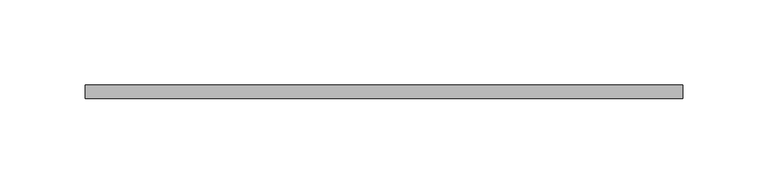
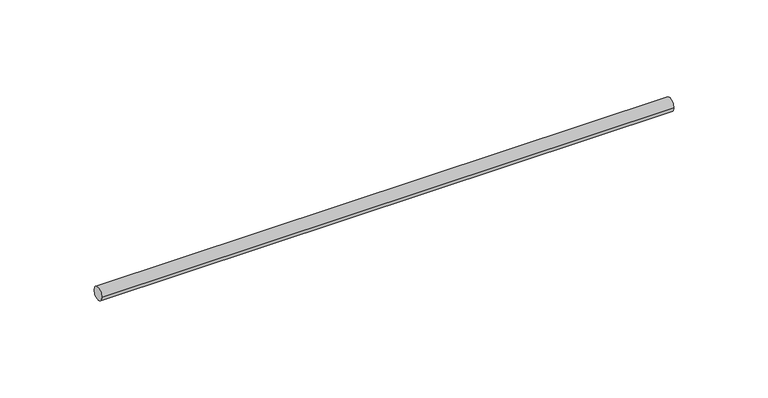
"""IFC4 building model written with IfcOpenShell, lengths in millimetres: valve geometry, Superfix Threaded Rod (used for clamps) : Threaded Rod  Extra  - 1000 mm (used for clamps)."""

from ifc_helpers import new_model, si_unit, point, frame, origin, origin_2d, place, context, project, spatial, circle_curve, trimmed, segment, composite_curve, outline, extrude, source, transform, mapped, element, save


def valve_f58c43d9(model_context):
    return source(origin(), model_context, "Body", "SweptSolid", [
        extrude(outline(composite_curve([segment(trimmed(circle_curve(origin_2d(), 4.0), [point((-4.0, 0.0))], [point((4.0, 0.0))], False, "CARTESIAN"), True, "CONTINUOUS"), segment(trimmed(circle_curve(origin_2d(), 4.0), [point((4.0, 0.0))], [point((-4.0, 0.0))], False, "CARTESIAN"), True, "CONTINUOUS")], self_intersect=False)), frame((-10.0, 0.0, 0.0), z_axis=(1.0, 0.0, 0.0), x_axis=(0.0, 1.0, 0.0)), (0.0, 0.0, 1.0), 350.5002332),
    ])


if __name__ == "__main__":
    model = new_model("IFC4")
    model_context = context("Model", 3, world=origin())
    ifc_project = project(units=[si_unit("LENGTHUNIT", "METRE", prefix="MILLI")], contexts=[model_context])
    site = spatial("IfcSite", under=ifc_project)
    building = spatial("IfcBuilding", under=site)
    placement = place(None, origin())
    valve_shape = valve_f58c43d9(model_context)
    element("IfcValve", 1, ObjectType="Superfix Threaded Rod (used for clamps) : Threaded Rod  Extra  - 1000 mm (used for clamps)", at=placement, inside=building, context=model_context, shape_type="MappedRepresentation", body=[
        mapped(valve_shape, transform((0.0, 0.0, 0.0), x_axis=(1.0, 0.0, 0.0), y_axis=(0.0, 1.0, 0.0), z_axis=(0.0, 0.0, 1.0))),
    ])
    save(model, "model.ifc")
